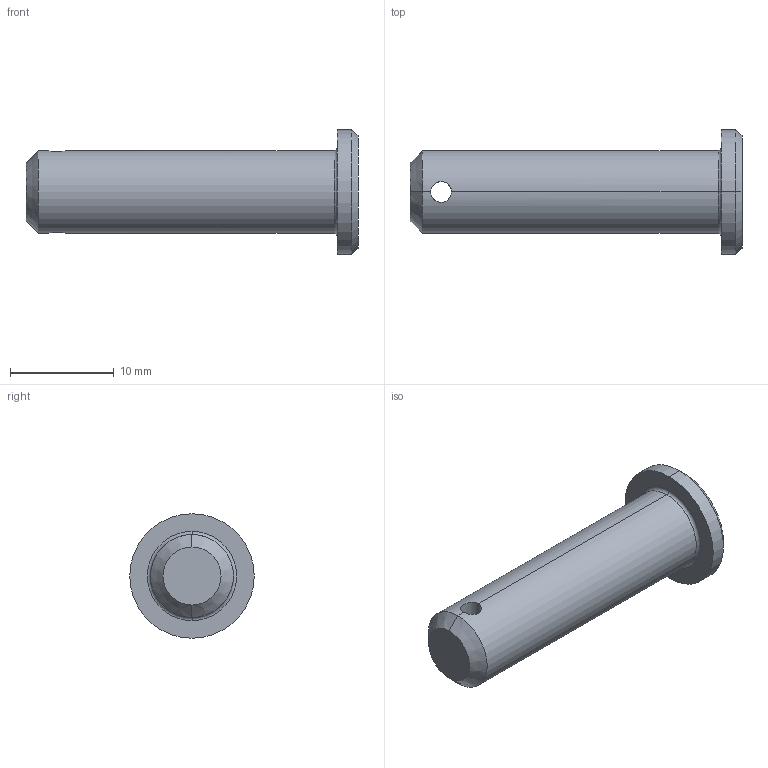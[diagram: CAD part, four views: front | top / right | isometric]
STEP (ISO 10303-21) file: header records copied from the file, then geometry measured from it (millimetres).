
FILE_DESCRIPTION (( 'STEP AP203' ), '1' );
FILE_NAME ('Wiberger-sms2360_8x30.step', '2012-10-09T08:58:55', ( 'Magnus' ), ( 'Wiberger' ), 'SwSTEP 2.0', 'SolidWorks 2011', '' );
FILE_SCHEMA (( 'CONFIG_CONTROL_DESIGN' ));
Length unit declared in the file: millimetre
Products named in the file (1): Wiberger-sms2360_8x30
Bounding box: 32 x 12 x 12 mm (x, y, z)
Volume: 1686.9 mm3; surface area: 1062.3 mm2
Topology: 1 solids, 1 shells, 15 faces, 32 edges, 18 vertices
Faces by surface type: cylinder 6, cone 4, plane 3, torus 2
Entity records: 543 total; most frequent: CARTESIAN_POINT 134, DIRECTION 76, ORIENTED_EDGE 64, EDGE_CURVE 32, AXIS2_PLACEMENT_3D 32, VERTEX_POINT 18, EDGE_LOOP 16, CIRCLE 16
